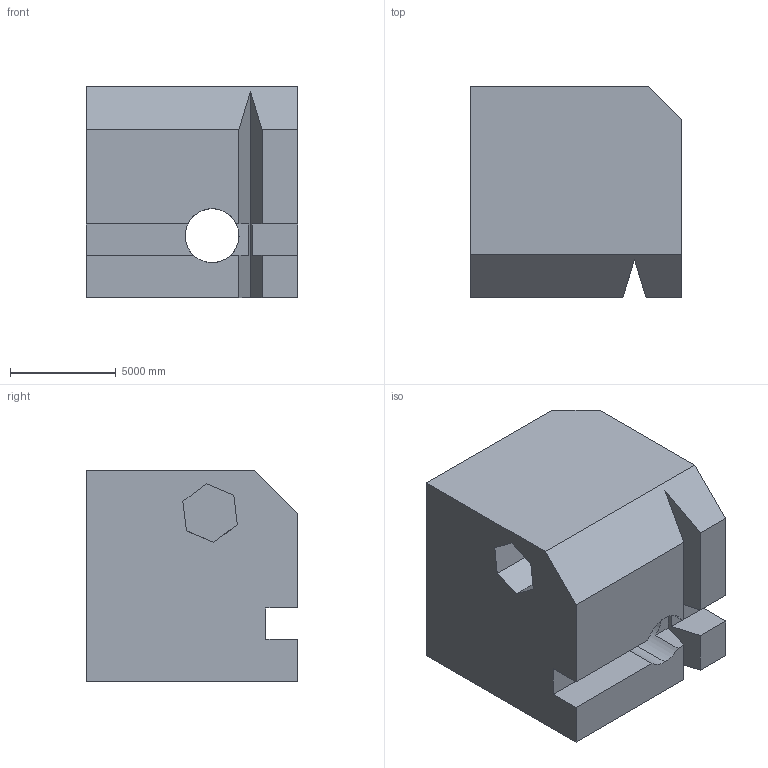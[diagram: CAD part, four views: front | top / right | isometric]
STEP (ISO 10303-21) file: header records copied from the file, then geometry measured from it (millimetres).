
FILE_DESCRIPTION (( 'STEP AP203' ), '1' );
FILE_NAME ('668.STEP', '2022-07-29T12:24:50', ( 'user' ), ( '' ), 'SwSTEP 2.0', 'SolidWorks 2021', '' );
FILE_SCHEMA (( 'CONFIG_CONTROL_DESIGN' ));
Length unit declared in the file: centimetre
Products named in the file (1): 668
Bounding box: 10000 x 10000 x 10000 mm (x, y, z)
Volume: 807763931855.7 mm3; surface area: 833936218.2 mm2
Topology: 1 solids, 1 shells, 37 faces, 105 edges, 70 vertices
Faces by surface type: plane 31, cylinder 6
Entity records: 1280 total; most frequent: CARTESIAN_POINT 225, ORIENTED_EDGE 210, DIRECTION 193, EDGE_CURVE 105, LINE 85, VECTOR 85, VERTEX_POINT 70, AXIS2_PLACEMENT_3D 54
